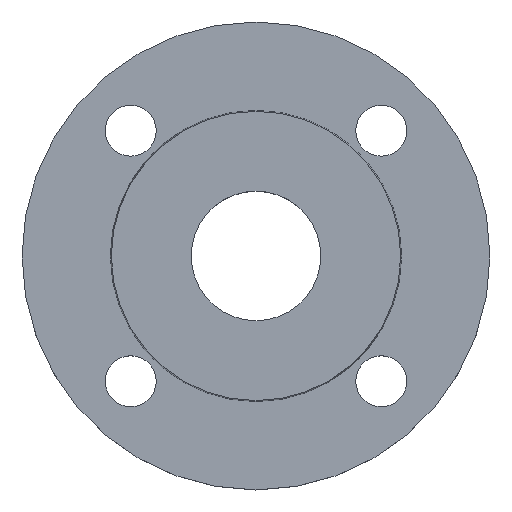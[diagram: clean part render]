
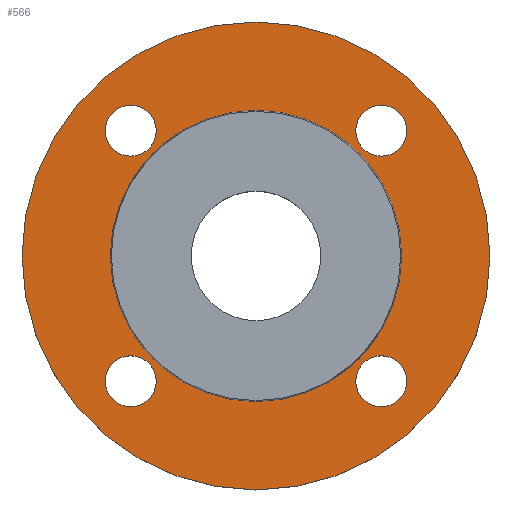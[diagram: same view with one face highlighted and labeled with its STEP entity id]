
A CAD part, top view. The second image highlights one B-rep face of the part: STEP entity #566.
In plain terms, the highlighted planar face has unit normal (0, 0, 1).
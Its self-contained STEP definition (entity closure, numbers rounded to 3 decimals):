
#3 = EDGE_CURVE ( 'NONE', #295, #332, #278, .T. ) ;
#5 = AXIS2_PLACEMENT_3D ( 'NONE', #73, #260, #711 ) ;
#15 = DIRECTION ( 'NONE',  ( 1., 0., 0. ) ) ;
#16 = EDGE_CURVE ( 'NONE', #471, #335, #208, .T. ) ;
#17 = CIRCLE ( 'NONE', #5, 9. ) ;
#25 = EDGE_CURVE ( 'NONE', #294, #293, #172, .T. ) ;
#32 = DIRECTION ( 'NONE',  ( 0., 0., -1. ) ) ;
#36 = CIRCLE ( 'NONE', #63, 9. ) ;
#44 = CIRCLE ( 'NONE', #48, 51.353 ) ;
#48 = AXIS2_PLACEMENT_3D ( 'NONE', #265, #32, #225 ) ;
#63 = AXIS2_PLACEMENT_3D ( 'NONE', #75, #121, #15 ) ;
#73 = CARTESIAN_POINT ( 'NONE',  ( 44.194, 44.194, -2. ) ) ;
#75 = CARTESIAN_POINT ( 'NONE',  ( -44.194, 44.194, -2. ) ) ;
#84 = CARTESIAN_POINT ( 'NONE',  ( 35.194, 44.194, -2. ) ) ;
#90 = CARTESIAN_POINT ( 'NONE',  ( -82.5, 0., -2. ) ) ;
#94 = CARTESIAN_POINT ( 'NONE',  ( 53.194, -44.194, -2. ) ) ;
#121 = DIRECTION ( 'NONE',  ( 0., 0., -1. ) ) ;
#127 = EDGE_CURVE ( 'NONE', #489, #317, #505, .T. ) ;
#132 = CARTESIAN_POINT ( 'NONE',  ( -35.194, 44.194, -2. ) ) ;
#142 = CARTESIAN_POINT ( 'NONE',  ( 0., 0., -2. ) ) ;
#143 = DIRECTION ( 'NONE',  ( 0., 0., -1. ) ) ;
#144 = AXIS2_PLACEMENT_3D ( 'NONE', #162, #168, #158 ) ;
#145 = DIRECTION ( 'NONE',  ( -1., 0., 0. ) ) ;
#158 = DIRECTION ( 'NONE',  ( -1., 0., 0. ) ) ;
#162 = CARTESIAN_POINT ( 'NONE',  ( 0., 0., -2. ) ) ;
#168 = DIRECTION ( 'NONE',  ( 0., 0., -1. ) ) ;
#170 = CARTESIAN_POINT ( 'NONE',  ( 44.194, -44.194, -2. ) ) ;
#171 = DIRECTION ( 'NONE',  ( 0., 0., -1. ) ) ;
#172 = CIRCLE ( 'NONE', #485, 9. ) ;
#173 = AXIS2_PLACEMENT_3D ( 'NONE', #546, #547, #548 ) ;
#175 = DIRECTION ( 'NONE',  ( 1., 0., 0. ) ) ;
#195 = CARTESIAN_POINT ( 'NONE',  ( 35.194, -44.194, -2. ) ) ;
#197 = CARTESIAN_POINT ( 'NONE',  ( -51.353, 0., -2. ) ) ;
#198 = CARTESIAN_POINT ( 'NONE',  ( 53.194, 44.194, -2. ) ) ;
#202 = EDGE_CURVE ( 'NONE', #293, #294, #480, .T. ) ;
#203 = CIRCLE ( 'NONE', #287, 9. ) ;
#205 = CARTESIAN_POINT ( 'NONE',  ( 51.353, 0., -2. ) ) ;
#208 = CIRCLE ( 'NONE', #173, 9. ) ;
#221 = CIRCLE ( 'NONE', #281, 82.5 ) ;
#225 = DIRECTION ( 'NONE',  ( -1., 0., 0. ) ) ;
#229 = FACE_BOUND ( 'NONE', #336, .T. ) ;
#231 = FACE_BOUND ( 'NONE', #503, .T. ) ;
#232 = FACE_BOUND ( 'NONE', #502, .T. ) ;
#233 = FACE_BOUND ( 'NONE', #472, .T. ) ;
#235 = FACE_BOUND ( 'NONE', #473, .T. ) ;
#236 = FACE_OUTER_BOUND ( 'NONE', #491, .T. ) ;
#237 = PLANE ( 'NONE',  #509 ) ;
#238 = CARTESIAN_POINT ( 'NONE',  ( 51.353, 0., -2. ) ) ;
#239 = DIRECTION ( 'NONE',  ( 0., 0., 1. ) ) ;
#241 = DIRECTION ( 'NONE',  ( 1., 0., 0. ) ) ;
#260 = DIRECTION ( 'NONE',  ( 0., 0., -1. ) ) ;
#265 = CARTESIAN_POINT ( 'NONE',  ( 0., 0., -2. ) ) ;
#268 = CIRCLE ( 'NONE', #144, 51.353 ) ;
#272 = AXIS2_PLACEMENT_3D ( 'NONE', #537, #539, #540 ) ;
#278 = CIRCLE ( 'NONE', #272, 82.5 ) ;
#281 = AXIS2_PLACEMENT_3D ( 'NONE', #142, #143, #145 ) ;
#287 = AXIS2_PLACEMENT_3D ( 'NONE', #699, #700, #701 ) ;
#291 = EDGE_CURVE ( 'NONE', #353, #307, #203, .T. ) ;
#293 = VERTEX_POINT ( 'NONE', #705 ) ;
#294 = VERTEX_POINT ( 'NONE', #706 ) ;
#295 = VERTEX_POINT ( 'NONE', #708 ) ;
#307 = VERTEX_POINT ( 'NONE', #717 ) ;
#317 = VERTEX_POINT ( 'NONE', #84 ) ;
#332 = VERTEX_POINT ( 'NONE', #90 ) ;
#335 = VERTEX_POINT ( 'NONE', #94 ) ;
#336 = EDGE_LOOP ( 'NONE', ( #368, #369 ) ) ;
#353 = VERTEX_POINT ( 'NONE', #132 ) ;
#368 = ORIENTED_EDGE ( 'NONE', *, *, #458, .T. ) ;
#369 = ORIENTED_EDGE ( 'NONE', *, *, #16, .T. ) ;
#370 = ORIENTED_EDGE ( 'NONE', *, *, #25, .T. ) ;
#372 = ORIENTED_EDGE ( 'NONE', *, *, #202, .T. ) ;
#373 = ORIENTED_EDGE ( 'NONE', *, *, #291, .T. ) ;
#374 = ORIENTED_EDGE ( 'NONE', *, *, #682, .T. ) ;
#375 = EDGE_CURVE ( 'NONE', #332, #295, #221, .T. ) ;
#376 = ORIENTED_EDGE ( 'NONE', *, *, #127, .T. ) ;
#377 = ORIENTED_EDGE ( 'NONE', *, *, #638, .T. ) ;
#378 = ORIENTED_EDGE ( 'NONE', *, *, #632, .T. ) ;
#379 = ORIENTED_EDGE ( 'NONE', *, *, #721, .T. ) ;
#380 = ORIENTED_EDGE ( 'NONE', *, *, #3, .F. ) ;
#382 = ORIENTED_EDGE ( 'NONE', *, *, #375, .F. ) ;
#458 = EDGE_CURVE ( 'NONE', #335, #471, #575, .T. ) ;
#471 = VERTEX_POINT ( 'NONE', #195 ) ;
#472 = EDGE_LOOP ( 'NONE', ( #376, #377 ) ) ;
#473 = EDGE_LOOP ( 'NONE', ( #378, #379 ) ) ;
#477 = AXIS2_PLACEMENT_3D ( 'NONE', #661, #662, #663 ) ;
#479 = VERTEX_POINT ( 'NONE', #197 ) ;
#480 = CIRCLE ( 'NONE', #477, 9. ) ;
#485 = AXIS2_PLACEMENT_3D ( 'NONE', #549, #550, #551 ) ;
#489 = VERTEX_POINT ( 'NONE', #198 ) ;
#491 = EDGE_LOOP ( 'NONE', ( #380, #382 ) ) ;
#495 = AXIS2_PLACEMENT_3D ( 'NONE', #618, #621, #623 ) ;
#502 = EDGE_LOOP ( 'NONE', ( #373, #374 ) ) ;
#503 = EDGE_LOOP ( 'NONE', ( #370, #372 ) ) ;
#505 = CIRCLE ( 'NONE', #495, 9. ) ;
#506 = VERTEX_POINT ( 'NONE', #205 ) ;
#509 = AXIS2_PLACEMENT_3D ( 'NONE', #238, #239, #241 ) ;
#537 = CARTESIAN_POINT ( 'NONE',  ( 0., 0., -2. ) ) ;
#539 = DIRECTION ( 'NONE',  ( 0., 0., -1. ) ) ;
#540 = DIRECTION ( 'NONE',  ( -1., 0., 0. ) ) ;
#546 = CARTESIAN_POINT ( 'NONE',  ( 44.194, -44.194, -2. ) ) ;
#547 = DIRECTION ( 'NONE',  ( 0., 0., -1. ) ) ;
#548 = DIRECTION ( 'NONE',  ( 1., 0., 0. ) ) ;
#549 = CARTESIAN_POINT ( 'NONE',  ( -44.194, -44.194, -2. ) ) ;
#550 = DIRECTION ( 'NONE',  ( 0., 0., -1. ) ) ;
#551 = DIRECTION ( 'NONE',  ( 1., 0., 0. ) ) ;
#561 = AXIS2_PLACEMENT_3D ( 'NONE', #170, #171, #175 ) ;
#566 = ADVANCED_FACE ( 'NONE', ( #229, #231, #232, #233, #235, #236 ), #237, .T. ) ;
#575 = CIRCLE ( 'NONE', #561, 9. ) ;
#618 = CARTESIAN_POINT ( 'NONE',  ( 44.194, 44.194, -2. ) ) ;
#621 = DIRECTION ( 'NONE',  ( 0., 0., -1. ) ) ;
#623 = DIRECTION ( 'NONE',  ( 1., 0., 0. ) ) ;
#632 = EDGE_CURVE ( 'NONE', #479, #506, #268, .T. ) ;
#638 = EDGE_CURVE ( 'NONE', #317, #489, #17, .T. ) ;
#661 = CARTESIAN_POINT ( 'NONE',  ( -44.194, -44.194, -2. ) ) ;
#662 = DIRECTION ( 'NONE',  ( 0., 0., -1. ) ) ;
#663 = DIRECTION ( 'NONE',  ( 1., 0., 0. ) ) ;
#682 = EDGE_CURVE ( 'NONE', #307, #353, #36, .T. ) ;
#699 = CARTESIAN_POINT ( 'NONE',  ( -44.194, 44.194, -2. ) ) ;
#700 = DIRECTION ( 'NONE',  ( 0., 0., -1. ) ) ;
#701 = DIRECTION ( 'NONE',  ( 1., 0., 0. ) ) ;
#705 = CARTESIAN_POINT ( 'NONE',  ( -53.194, -44.194, -2. ) ) ;
#706 = CARTESIAN_POINT ( 'NONE',  ( -35.194, -44.194, -2. ) ) ;
#708 = CARTESIAN_POINT ( 'NONE',  ( 82.5, 0., -2. ) ) ;
#711 = DIRECTION ( 'NONE',  ( 1., 0., 0. ) ) ;
#717 = CARTESIAN_POINT ( 'NONE',  ( -53.194, 44.194, -2. ) ) ;
#721 = EDGE_CURVE ( 'NONE', #506, #479, #44, .T. ) ;
